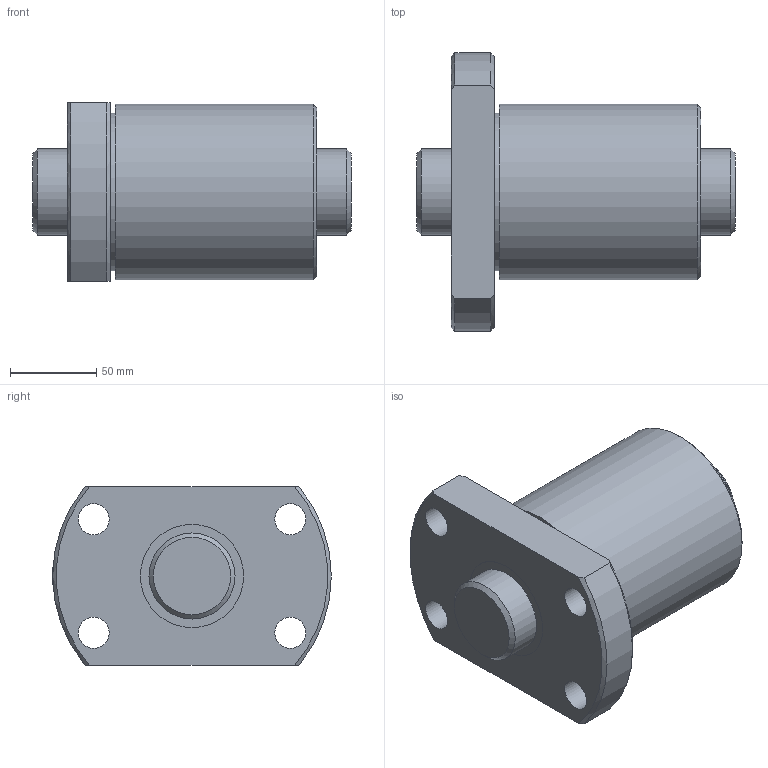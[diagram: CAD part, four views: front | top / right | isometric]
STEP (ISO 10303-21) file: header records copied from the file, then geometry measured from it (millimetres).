
FILE_DESCRIPTION(/* description */ ('STEP AP203'),/* implementation_level */ '2;1');
FILE_NAME(/* name */ 'BTK5016V-5.3ZZ+185LC7T_000',/* time_stamp */ '2025-01-16T07:58:54+01:00',/* author */ ('License CC BY-ND 4.0'),/* organization */ ('CADENAS'),/* preprocessor_version */ 'ST-DEVELOPER v19.3',/* originating_system */ 'PARTsolutions',/* authorisation */ ' ');
FILE_SCHEMA (('CONFIG_CONTROL_DESIGN'));
Length unit declared in the file: millimetre
Products named in the file (3): BTK5016V-5.3ZZ+185LC7T_000; BTK 5016V-5.300 Shaft; BTK 5016V-5.3ZZ Nut
Assembly tree (2 placements, depth 2):
  BTK5016V-5.3ZZ+185LC7T_000
    BTK 5016V-5.300 Shaft
    BTK 5016V-5.3ZZ Nut
Bounding box: 185 x 162 x 104 mm (x, y, z)
Volume: 1413289.4 mm3; surface area: 139988.4 mm2
Topology: 2 solids, 2 shells, 32 faces, 69 edges, 45 vertices
Faces by surface type: cylinder 13, plane 10, cone 9
Full cylindrical faces by diameter (mm): 8.566 x1, 18 x4, 50 x2, 60 x2, 91.8 x1, 102 x1
Entity records: 911 total; most frequent: CARTESIAN_POINT 177, DIRECTION 144, ORIENTED_EDGE 102, AXIS2_PLACEMENT_3D 68, EDGE_LOOP 64, FACE_BOUND 64, EDGE_CURVE 51, VERTEX_POINT 43
